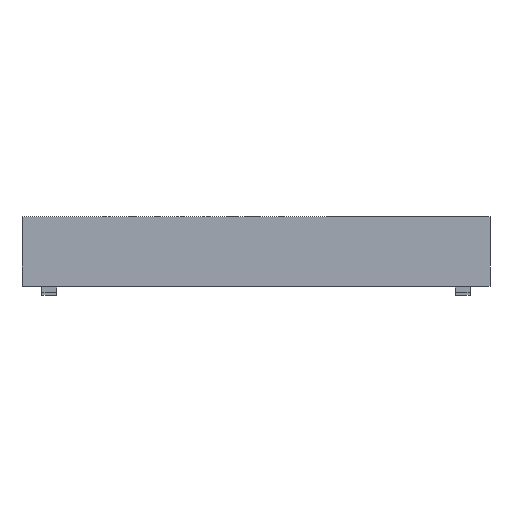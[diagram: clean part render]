
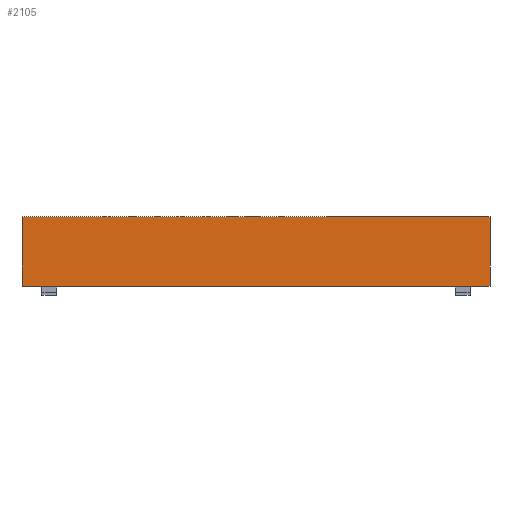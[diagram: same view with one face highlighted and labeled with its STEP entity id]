
A CAD part, front view. The second image highlights one B-rep face of the part: STEP entity #2105.
In plain terms, the highlighted planar face has unit normal (0, -1, 0).
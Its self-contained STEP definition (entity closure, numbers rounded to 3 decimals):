
#32 = PLANE('',#33);
#33 = AXIS2_PLACEMENT_3D('',#34,#35,#36);
#34 = CARTESIAN_POINT('',(20.15,-103.,201.));
#35 = DIRECTION('',(0.,0.,1.));
#36 = DIRECTION('',(1.,0.,0.));
#57 = VERTEX_POINT('',#58);
#58 = CARTESIAN_POINT('',(20.15,-103.,201.));
#72 = PLANE('',#73);
#73 = AXIS2_PLACEMENT_3D('',#74,#75,#76);
#74 = CARTESIAN_POINT('',(20.15,0.,197.249));
#75 = DIRECTION('',(-1.,-0.,-0.));
#76 = DIRECTION('',(0.,0.,-1.));
#84 = EDGE_CURVE('',#57,#85,#87,.T.);
#85 = VERTEX_POINT('',#86);
#86 = CARTESIAN_POINT('',(209.,-103.,201.));
#87 = SURFACE_CURVE('',#88,(#92,#99),.PCURVE_S1.);
#88 = LINE('',#89,#90);
#89 = CARTESIAN_POINT('',(20.15,-103.,201.));
#90 = VECTOR('',#91,1.);
#91 = DIRECTION('',(1.,0.,0.));
#92 = PCURVE('',#32,#93);
#93 = DEFINITIONAL_REPRESENTATION('',(#94),#98);
#94 = LINE('',#95,#96);
#95 = CARTESIAN_POINT('',(0.,0.));
#96 = VECTOR('',#97,1.);
#97 = DIRECTION('',(1.,0.));
#98 = ( GEOMETRIC_REPRESENTATION_CONTEXT(2) 
PARAMETRIC_REPRESENTATION_CONTEXT() REPRESENTATION_CONTEXT('2D SPACE',''
  ) );
#99 = PCURVE('',#100,#105);
#100 = PLANE('',#101);
#101 = AXIS2_PLACEMENT_3D('',#102,#103,#104);
#102 = CARTESIAN_POINT('',(114.575,-103.,187.));
#103 = DIRECTION('',(-0.,-1.,-0.));
#104 = DIRECTION('',(0.,0.,-1.));
#105 = DEFINITIONAL_REPRESENTATION('',(#106),#110);
#106 = LINE('',#107,#108);
#107 = CARTESIAN_POINT('',(-14.,-94.425));
#108 = VECTOR('',#109,1.);
#109 = DIRECTION('',(0.,1.));
#110 = ( GEOMETRIC_REPRESENTATION_CONTEXT(2) 
PARAMETRIC_REPRESENTATION_CONTEXT() REPRESENTATION_CONTEXT('2D SPACE',''
  ) );
#128 = PLANE('',#129);
#129 = AXIS2_PLACEMENT_3D('',#130,#131,#132);
#130 = CARTESIAN_POINT('',(209.,0.,187.));
#131 = DIRECTION('',(1.,0.,0.));
#132 = DIRECTION('',(0.,0.,1.));
#1964 = VERTEX_POINT('',#1965);
#1965 = CARTESIAN_POINT('',(20.15,-103.,173.));
#1979 = PLANE('',#1980);
#1980 = AXIS2_PLACEMENT_3D('',#1981,#1982,#1983);
#1981 = CARTESIAN_POINT('',(146.996,0.,173.));
#1982 = DIRECTION('',(-0.,-0.,-1.));
#1983 = DIRECTION('',(-1.,0.,0.));
#1991 = EDGE_CURVE('',#1964,#57,#1992,.T.);
#1992 = SURFACE_CURVE('',#1993,(#1997,#2004),.PCURVE_S1.);
#1993 = LINE('',#1994,#1995);
#1994 = CARTESIAN_POINT('',(20.15,-103.,173.));
#1995 = VECTOR('',#1996,1.);
#1996 = DIRECTION('',(0.,0.,1.));
#1997 = PCURVE('',#72,#1998);
#1998 = DEFINITIONAL_REPRESENTATION('',(#1999),#2003);
#1999 = LINE('',#2000,#2001);
#2000 = CARTESIAN_POINT('',(24.249,103.));
#2001 = VECTOR('',#2002,1.);
#2002 = DIRECTION('',(-1.,0.));
#2003 = ( GEOMETRIC_REPRESENTATION_CONTEXT(2) 
PARAMETRIC_REPRESENTATION_CONTEXT() REPRESENTATION_CONTEXT('2D SPACE',''
  ) );
#2004 = PCURVE('',#100,#2005);
#2005 = DEFINITIONAL_REPRESENTATION('',(#2006),#2010);
#2006 = LINE('',#2007,#2008);
#2007 = CARTESIAN_POINT('',(14.,-94.425));
#2008 = VECTOR('',#2009,1.);
#2009 = DIRECTION('',(-1.,0.));
#2010 = ( GEOMETRIC_REPRESENTATION_CONTEXT(2) 
PARAMETRIC_REPRESENTATION_CONTEXT() REPRESENTATION_CONTEXT('2D SPACE',''
  ) );
#2105 = ADVANCED_FACE('',(#2106),#100,.T.);
#2106 = FACE_BOUND('',#2107,.T.);
#2107 = EDGE_LOOP('',(#2108,#2109,#2110,#2133));
#2108 = ORIENTED_EDGE('',*,*,#84,.F.);
#2109 = ORIENTED_EDGE('',*,*,#1991,.F.);
#2110 = ORIENTED_EDGE('',*,*,#2111,.T.);
#2111 = EDGE_CURVE('',#1964,#2112,#2114,.T.);
#2112 = VERTEX_POINT('',#2113);
#2113 = CARTESIAN_POINT('',(209.,-103.,173.));
#2114 = SURFACE_CURVE('',#2115,(#2119,#2126),.PCURVE_S1.);
#2115 = LINE('',#2116,#2117);
#2116 = CARTESIAN_POINT('',(20.15,-103.,173.));
#2117 = VECTOR('',#2118,1.);
#2118 = DIRECTION('',(1.,0.,0.));
#2119 = PCURVE('',#100,#2120);
#2120 = DEFINITIONAL_REPRESENTATION('',(#2121),#2125);
#2121 = LINE('',#2122,#2123);
#2122 = CARTESIAN_POINT('',(14.,-94.425));
#2123 = VECTOR('',#2124,1.);
#2124 = DIRECTION('',(0.,1.));
#2125 = ( GEOMETRIC_REPRESENTATION_CONTEXT(2) 
PARAMETRIC_REPRESENTATION_CONTEXT() REPRESENTATION_CONTEXT('2D SPACE',''
  ) );
#2126 = PCURVE('',#1979,#2127);
#2127 = DEFINITIONAL_REPRESENTATION('',(#2128),#2132);
#2128 = LINE('',#2129,#2130);
#2129 = CARTESIAN_POINT('',(126.846,-103.));
#2130 = VECTOR('',#2131,1.);
#2131 = DIRECTION('',(-1.,0.));
#2132 = ( GEOMETRIC_REPRESENTATION_CONTEXT(2) 
PARAMETRIC_REPRESENTATION_CONTEXT() REPRESENTATION_CONTEXT('2D SPACE',''
  ) );
#2133 = ORIENTED_EDGE('',*,*,#2134,.T.);
#2134 = EDGE_CURVE('',#2112,#85,#2135,.T.);
#2135 = SURFACE_CURVE('',#2136,(#2140,#2147),.PCURVE_S1.);
#2136 = LINE('',#2137,#2138);
#2137 = CARTESIAN_POINT('',(209.,-103.,173.));
#2138 = VECTOR('',#2139,1.);
#2139 = DIRECTION('',(0.,0.,1.));
#2140 = PCURVE('',#100,#2141);
#2141 = DEFINITIONAL_REPRESENTATION('',(#2142),#2146);
#2142 = LINE('',#2143,#2144);
#2143 = CARTESIAN_POINT('',(14.,94.425));
#2144 = VECTOR('',#2145,1.);
#2145 = DIRECTION('',(-1.,0.));
#2146 = ( GEOMETRIC_REPRESENTATION_CONTEXT(2) 
PARAMETRIC_REPRESENTATION_CONTEXT() REPRESENTATION_CONTEXT('2D SPACE',''
  ) );
#2147 = PCURVE('',#128,#2148);
#2148 = DEFINITIONAL_REPRESENTATION('',(#2149),#2153);
#2149 = LINE('',#2150,#2151);
#2150 = CARTESIAN_POINT('',(-14.,103.));
#2151 = VECTOR('',#2152,1.);
#2152 = DIRECTION('',(1.,0.));
#2153 = ( GEOMETRIC_REPRESENTATION_CONTEXT(2) 
PARAMETRIC_REPRESENTATION_CONTEXT() REPRESENTATION_CONTEXT('2D SPACE',''
  ) );
